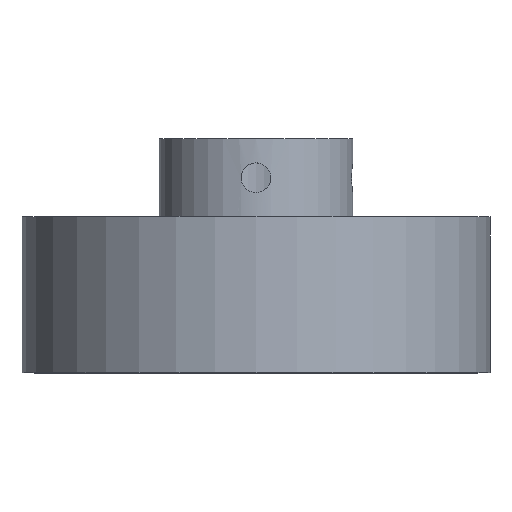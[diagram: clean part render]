
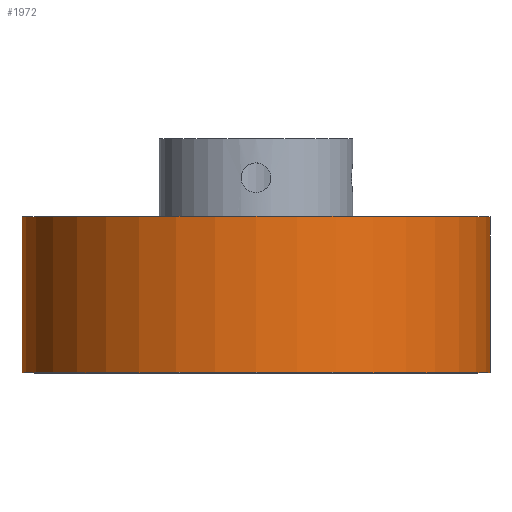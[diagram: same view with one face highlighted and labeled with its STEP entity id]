
A CAD part, top view. The second image highlights one B-rep face of the part: STEP entity #1972.
In plain terms, the highlighted cylindrical face has radius 38.1 mm (diameter 76.2 mm), a full revolution.
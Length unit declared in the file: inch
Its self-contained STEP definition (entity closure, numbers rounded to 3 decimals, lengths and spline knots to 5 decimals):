
#268=FACE_OUTER_BOUND('',#362,.T.);
#362=EDGE_LOOP('',(#1617,#1618,#1619,#1620));
#548=LINE('',#3307,#694);
#694=VECTOR('',#2761,1.5);
#813=CIRCLE('',#2202,1.5);
#814=CIRCLE('',#2203,1.5);
#989=VERTEX_POINT('',#3304);
#990=VERTEX_POINT('',#3306);
#1258=EDGE_CURVE('',#989,#989,#813,.T.);
#1259=EDGE_CURVE('',#989,#990,#548,.T.);
#1260=EDGE_CURVE('',#990,#990,#814,.T.);
#1617=ORIENTED_EDGE('',*,*,#1258,.F.);
#1618=ORIENTED_EDGE('',*,*,#1259,.T.);
#1619=ORIENTED_EDGE('',*,*,#1260,.T.);
#1620=ORIENTED_EDGE('',*,*,#1259,.F.);
#1882=CYLINDRICAL_SURFACE('',#2201,1.5);
#1972=ADVANCED_FACE('',(#268),#1882,.T.);
#2201=AXIS2_PLACEMENT_3D('',#3303,#2757,#2758);
#2202=AXIS2_PLACEMENT_3D('',#3305,#2759,#2760);
#2203=AXIS2_PLACEMENT_3D('',#3308,#2762,#2763);
#2757=DIRECTION('center_axis',(0.,1.,0.));
#2758=DIRECTION('ref_axis',(-1.,0.,0.));
#2759=DIRECTION('center_axis',(0.,1.,0.));
#2760=DIRECTION('ref_axis',(-1.,0.,0.));
#2761=DIRECTION('',(0.,-1.,0.));
#2762=DIRECTION('center_axis',(0.,1.,0.));
#2763=DIRECTION('ref_axis',(-1.,0.,0.));
#3303=CARTESIAN_POINT('Origin',(0.,0.,0.));
#3304=CARTESIAN_POINT('',(1.5,1.,0.));
#3305=CARTESIAN_POINT('Origin',(0.,1.,0.));
#3306=CARTESIAN_POINT('',(1.5,0.,0.));
#3307=CARTESIAN_POINT('',(1.5,0.,0.));
#3308=CARTESIAN_POINT('Origin',(0.,0.,0.));
